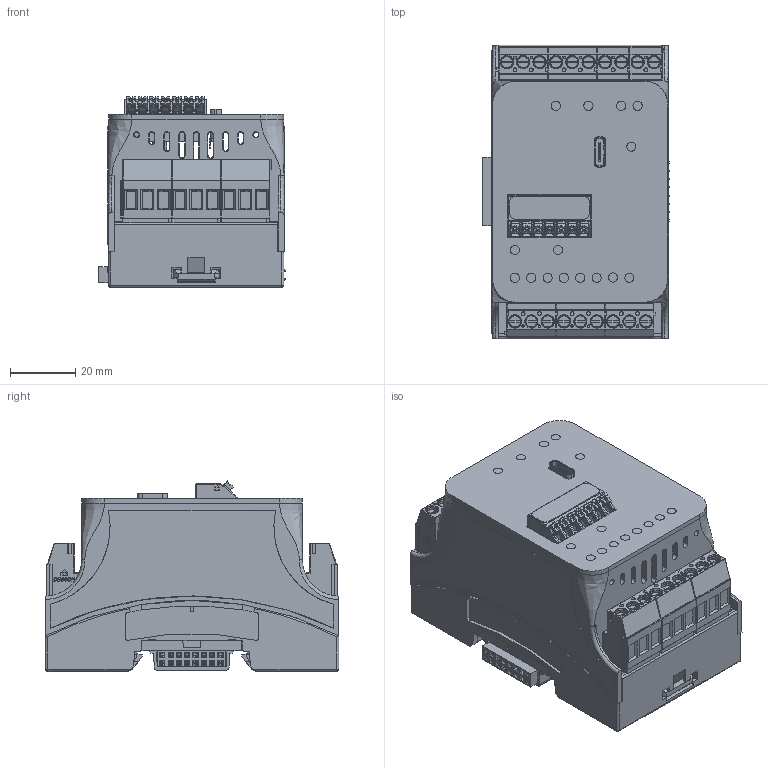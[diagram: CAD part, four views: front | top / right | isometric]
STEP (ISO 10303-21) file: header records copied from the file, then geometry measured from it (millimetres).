
FILE_DESCRIPTION(/* description */ (''),/* implementation_level */ '2;1');
FILE_NAME(/* name */ 'D:\WorkIMT\Project IMT\МВВ\v1\3D на сайт\BASE (2RS).stp',/* time_stamp */ '2026-06-09T08:44:32+03:00',/* author */ ('admin'),/* organization */ (''),/* preprocessor_version */ 'ST-DEVELOPER v17.2',/* originating_system */ 'Autodesk Inventor 2019',/* authorisation */ '');
FILE_SCHEMA (('AUTOMOTIVE_DESIGN { 1 0 10303 214 3 1 1 }'));
Products named in the file (1): MT.GARA-DIN.BASE.220V.2RS.XX.XX 2
Bounding box: 57.13 x 89.74 x 58.21 mm (x, y, z)
Volume: 73083.9 mm3; surface area: 78894.8 mm2
Topology: 4 solids, 66 shells, 8785 faces, 24300 edges, 15724 vertices
Faces by surface type: plane 7112, cylinder 1007, bspline 239, cone 224, torus 142, sphere 61
Full cylindrical faces by diameter (mm): 0.2 x197, 0.3 x1, 0.4 x1, 1.2 x18, 1.3 x7, 1.8 x3, 2.2 x8, 4.05 x19
Entity records: 303469 total; most frequent: CARTESIAN_POINT 70510, ORIENTED_EDGE 48476, DIRECTION 43648, EDGE_CURVE 24238, LINE 19816, VECTOR 19816, VERTEX_POINT 15724, AXIS2_PLACEMENT_3D 11916
